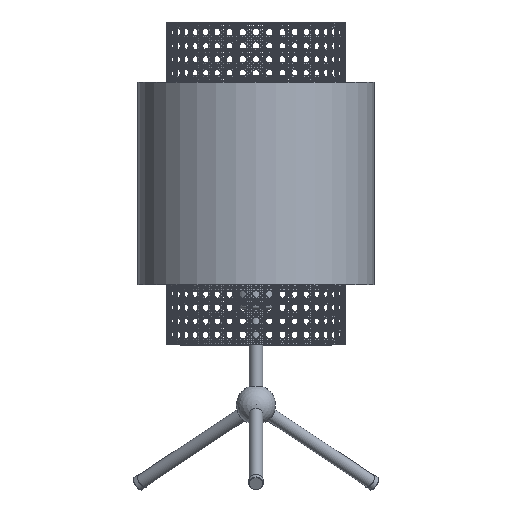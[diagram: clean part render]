
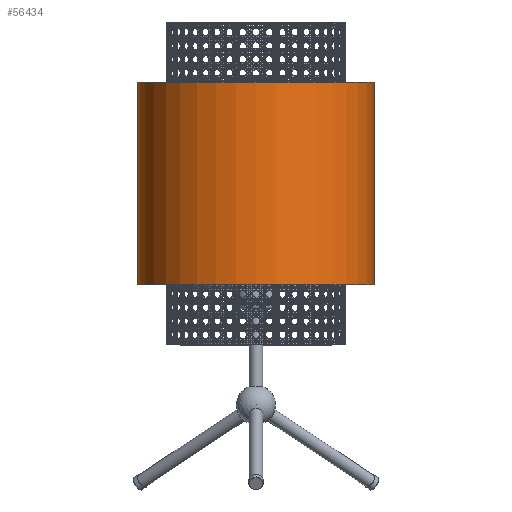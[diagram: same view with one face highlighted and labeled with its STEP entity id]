
A CAD part, top view. The second image highlights one B-rep face of the part: STEP entity #56434.
In plain terms, the highlighted cylindrical face has radius 105 mm (diameter 210 mm), a full revolution.
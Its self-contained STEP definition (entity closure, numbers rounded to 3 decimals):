
#7603=LINE('',#167516,#10045);
#10045=VECTOR('',#71387,105.);
#11987=CYLINDRICAL_SURFACE('',#61525,105.);
#14530=FACE_OUTER_BOUND('',#18210,.T.);
#18210=EDGE_LOOP('',(#45931,#45932,#45933,#45934));
#21441=CIRCLE('',#61519,105.);
#21443=CIRCLE('',#61522,105.);
#25735=VERTEX_POINT('',#167504);
#25737=VERTEX_POINT('',#167509);
#32941=EDGE_CURVE('',#25735,#25735,#21441,.T.);
#32943=EDGE_CURVE('',#25737,#25737,#21443,.T.);
#32946=EDGE_CURVE('',#25735,#25737,#7603,.T.);
#45931=ORIENTED_EDGE('',*,*,#32941,.T.);
#45932=ORIENTED_EDGE('',*,*,#32946,.T.);
#45933=ORIENTED_EDGE('',*,*,#32943,.T.);
#45934=ORIENTED_EDGE('',*,*,#32946,.F.);
#56434=ADVANCED_FACE('',(#14530),#11987,.T.);
#61519=AXIS2_PLACEMENT_3D('',#167505,#71372,#71373);
#61522=AXIS2_PLACEMENT_3D('',#167510,#71378,#71379);
#61525=AXIS2_PLACEMENT_3D('',#167515,#71385,#71386);
#71372=DIRECTION('center_axis',(0.,-1.,0.));
#71373=DIRECTION('ref_axis',(1.,0.,0.));
#71378=DIRECTION('center_axis',(0.,1.,0.));
#71379=DIRECTION('ref_axis',(1.,0.,0.));
#71385=DIRECTION('center_axis',(0.,1.,0.));
#71386=DIRECTION('ref_axis',(1.,0.,0.));
#71387=DIRECTION('',(0.,-1.,0.));
#167504=CARTESIAN_POINT('',(-105.,247.,0.));
#167505=CARTESIAN_POINT('Origin',(0.,247.,0.));
#167509=CARTESIAN_POINT('',(-105.,67.,0.));
#167510=CARTESIAN_POINT('Origin',(0.,67.,0.));
#167515=CARTESIAN_POINT('Origin',(0.,47.,0.));
#167516=CARTESIAN_POINT('',(-105.,47.,0.));
